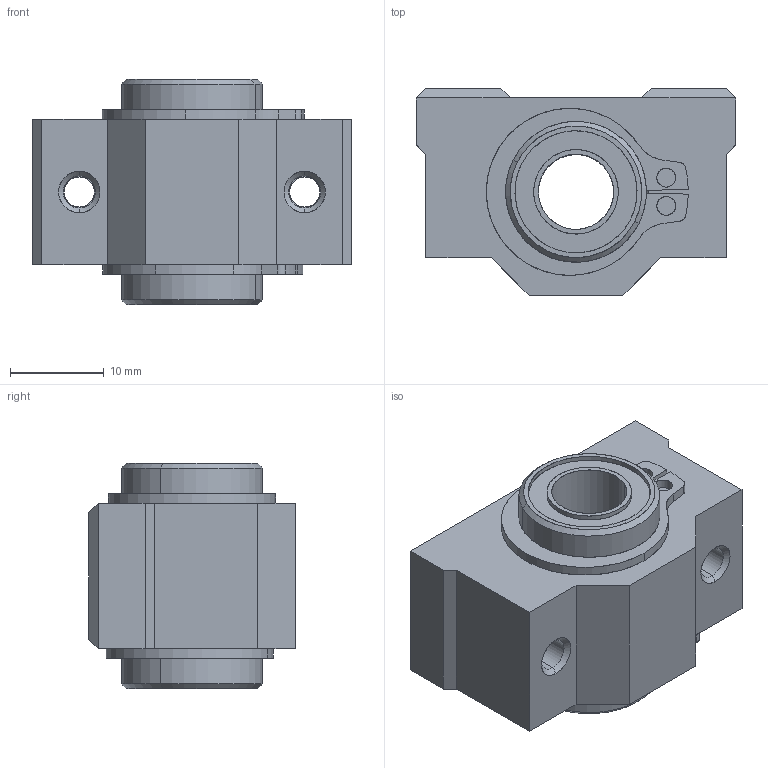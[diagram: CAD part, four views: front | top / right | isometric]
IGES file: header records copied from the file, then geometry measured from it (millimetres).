
Start section: SolidWorks IGES file using analytic representation for surfaces
Global section: file name: D:\SOLIDWORKS PROEKTI\freelance cnc cat\VTORA SERIJA\SC-VUU\SC8VUU.IGS; native system: SolidWorks 2016; preprocessor: SolidWorks 2016; author: User; date: 170805.194122; units: millimetre
Bounding box: 34 x 22 x 24 mm (x, y, z)
Surface area: 6349.6 mm2 (no closed solid volume)
Topology: 0 solids, 0 shells, 294 faces, 6665 edges, 8189 vertices
Faces by surface type: bspline 209, revolution 85
